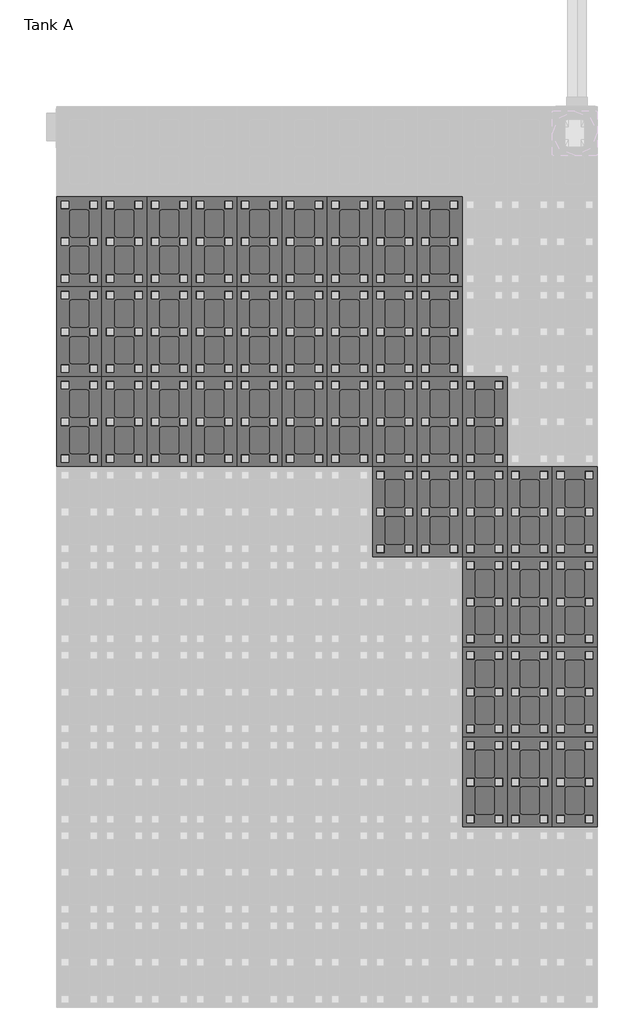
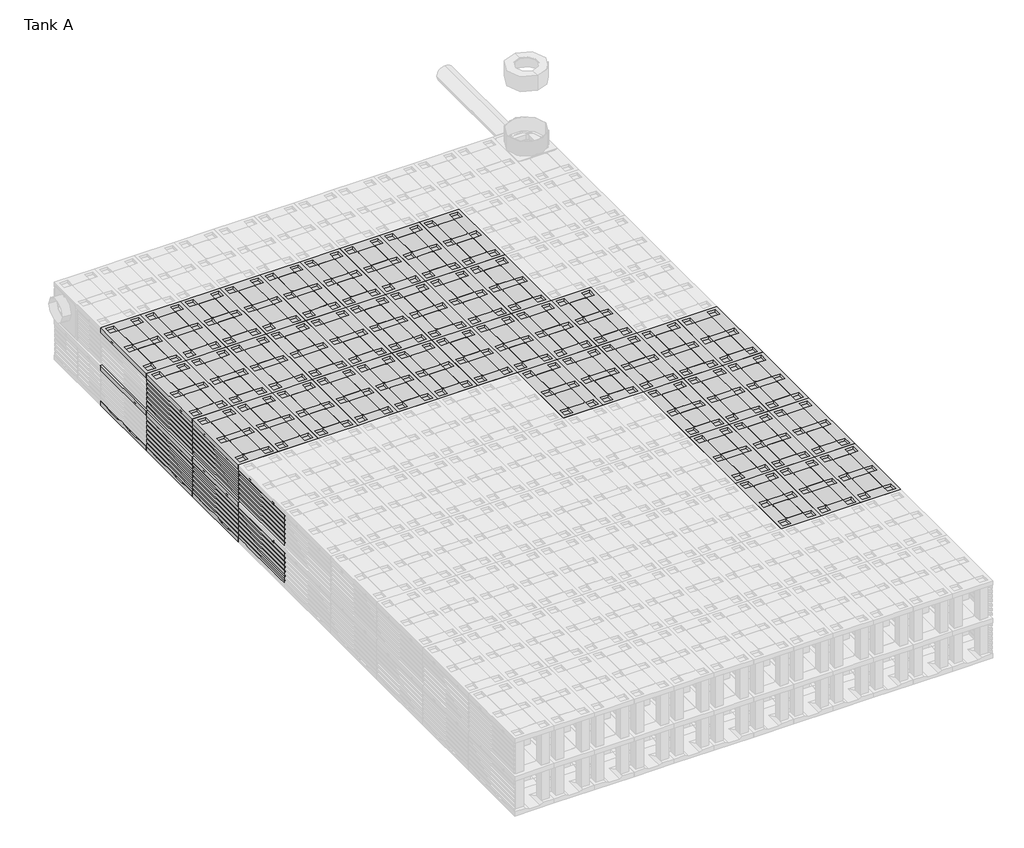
# One storey, part 3 of 6: 142 unitary equipment elements.
"""IFC4 building model written with IfcOpenShell, lengths in millimetres."""

from ifc_helpers import new_model, si_unit, origin, place, context, project, spatial, transform, mapped, element, save
from components import closed_bottom_plate_7d425a97, std_f31acf44, std_d7962c01

model = new_model("IFC4")

# Units and contexts
model_context = context("Model", 3, world=origin())
ifc_project = project(units=[si_unit("LENGTHUNIT", "METRE", prefix="MILLI")], contexts=[model_context])

# Site, building, storey
site = spatial("IfcSite", under=ifc_project)
building = spatial("IfcBuilding", under=site)
storey = spatial("IfcBuildingStorey", under=building, Name="Tank A", Elevation=-2300.0)

# Unitary equipment
placement = place(None, origin())
closed_bottom_plate_shape = closed_bottom_plate_7d425a97(model_context)
element("IfcUnitaryEquipment", 1, ObjectType="Wavin_MechanicalEquipment_QBicPlusZDoNotUseBottomPlate : Open bottom plate", at=placement, inside=storey, context=model_context, shape_type="MappedRepresentation", body=[
    mapped(closed_bottom_plate_shape, transform((9686.051096, 360.7779398, -2230.0), x_axis=(0.0, 1.0, 0.0), y_axis=(-1.0000000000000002, 0.0, 0.0), z_axis=(0.0, 0.0, 1.0000000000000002))),
])
element("IfcUnitaryEquipment", 2, ObjectType="Wavin_MechanicalEquipment_QBicPlusZDoNotUseBottomPlate : Open bottom plate", at=placement, inside=storey, context=model_context, shape_type="MappedRepresentation", body=[
    mapped(closed_bottom_plate_shape, transform((9686.051096, 1560.7779398, -2230.0), x_axis=(0.0, 1.0, 0.0), y_axis=(-1.0000000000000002, 0.0, 0.0), z_axis=(0.0, 0.0, 1.0000000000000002))),
])
element("IfcUnitaryEquipment", 3, ObjectType="Wavin_MechanicalEquipment_QBicPlusZDoNotUseBottomPlate : Open bottom plate", at=placement, inside=storey, context=model_context, shape_type="MappedRepresentation", body=[
    mapped(closed_bottom_plate_shape, transform((9686.051096, 2760.7779398, -2230.0), x_axis=(0.0, 1.0, 0.0), y_axis=(-1.0000000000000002, 0.0, 0.0), z_axis=(0.0, 0.0, 1.0000000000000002))),
])
element("IfcUnitaryEquipment", 4, ObjectType="Wavin_MechanicalEquipment_QBicPlusZDoNotUseBottomPlate : Open bottom plate", at=placement, inside=storey, context=model_context, shape_type="MappedRepresentation", body=[
    mapped(closed_bottom_plate_shape, transform((9686.051096, 3960.7779398, -2230.0), x_axis=(0.0, 1.0, 0.0), y_axis=(-1.0000000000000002, 0.0, 0.0), z_axis=(0.0, 0.0, 1.0000000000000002))),
])
element("IfcUnitaryEquipment", 5, ObjectType="Wavin_MechanicalEquipment_QBicPlusZDoNotUseBottomPlate : Open bottom plate", at=placement, inside=storey, context=model_context, shape_type="MappedRepresentation", body=[
    mapped(closed_bottom_plate_shape, transform((9086.051096, 360.7779398, -2230.0), x_axis=(0.0, 1.0, 0.0), y_axis=(-1.0000000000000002, 0.0, 0.0), z_axis=(0.0, 0.0, 1.0000000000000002))),
])
element("IfcUnitaryEquipment", 6, ObjectType="Wavin_MechanicalEquipment_QBicPlusZDoNotUseBottomPlate : Open bottom plate", at=placement, inside=storey, context=model_context, shape_type="MappedRepresentation", body=[
    mapped(closed_bottom_plate_shape, transform((9086.051096, 1560.7779398, -2230.0), x_axis=(0.0, 1.0, 0.0), y_axis=(-1.0000000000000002, 0.0, 0.0), z_axis=(0.0, 0.0, 1.0000000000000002))),
])
element("IfcUnitaryEquipment", 7, ObjectType="Wavin_MechanicalEquipment_QBicPlusZDoNotUseBottomPlate : Open bottom plate", at=placement, inside=storey, context=model_context, shape_type="MappedRepresentation", body=[
    mapped(closed_bottom_plate_shape, transform((9086.051096, 2760.7779398, -2230.0), x_axis=(0.0, 1.0, 0.0), y_axis=(-1.0000000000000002, 0.0, 0.0), z_axis=(0.0, 0.0, 1.0000000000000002))),
])
element("IfcUnitaryEquipment", 8, ObjectType="Wavin_MechanicalEquipment_QBicPlusZDoNotUseBottomPlate : Open bottom plate", at=placement, inside=storey, context=model_context, shape_type="MappedRepresentation", body=[
    mapped(closed_bottom_plate_shape, transform((9086.051096, 3960.7779398, -2230.0), x_axis=(0.0, 1.0, 0.0), y_axis=(-1.0000000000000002, 0.0, 0.0), z_axis=(0.0, 0.0, 1.0000000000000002))),
])
element("IfcUnitaryEquipment", 9, ObjectType="Wavin_MechanicalEquipment_QBicPlusZDoNotUseBottomPlate : Open bottom plate", at=placement, inside=storey, context=model_context, shape_type="MappedRepresentation", body=[
    mapped(closed_bottom_plate_shape, transform((8486.051096, 360.7779398, -2230.0), x_axis=(0.0, 1.0, 0.0), y_axis=(-1.0000000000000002, 0.0, 0.0), z_axis=(0.0, 0.0, 1.0000000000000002))),
])
element("IfcUnitaryEquipment", 10, ObjectType="Wavin_MechanicalEquipment_QBicPlusZDoNotUseBottomPlate : Open bottom plate", at=placement, inside=storey, context=model_context, shape_type="MappedRepresentation", body=[
    mapped(closed_bottom_plate_shape, transform((8486.051096, 1560.7779398, -2230.0), x_axis=(0.0, 1.0, 0.0), y_axis=(-1.0000000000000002, 0.0, 0.0), z_axis=(0.0, 0.0, 1.0000000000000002))),
])
element("IfcUnitaryEquipment", 11, ObjectType="Wavin_MechanicalEquipment_QBicPlusZDoNotUseBottomPlate : Open bottom plate", at=placement, inside=storey, context=model_context, shape_type="MappedRepresentation", body=[
    mapped(closed_bottom_plate_shape, transform((8486.051096, 2760.7779398, -2230.0), x_axis=(0.0, 1.0, 0.0), y_axis=(-1.0000000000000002, 0.0, 0.0), z_axis=(0.0, 0.0, 1.0000000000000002))),
])
element("IfcUnitaryEquipment", 12, ObjectType="Wavin_MechanicalEquipment_QBicPlusZDoNotUseBottomPlate : Open bottom plate", at=placement, inside=storey, context=model_context, shape_type="MappedRepresentation", body=[
    mapped(closed_bottom_plate_shape, transform((8486.051096, 3960.7779398, -2230.0), x_axis=(0.0, 1.0, 0.0), y_axis=(-1.0000000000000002, 0.0, 0.0), z_axis=(0.0, 0.0, 1.0000000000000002))),
])
element("IfcUnitaryEquipment", 13, ObjectType="Wavin_MechanicalEquipment_QBicPlusZDoNotUseBottomPlate : Open bottom plate", at=placement, inside=storey, context=model_context, shape_type="MappedRepresentation", body=[
    mapped(closed_bottom_plate_shape, transform((7886.051096, 3960.7779398, -2230.0), x_axis=(0.0, 1.0, 0.0), y_axis=(-1.0000000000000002, 0.0, 0.0), z_axis=(0.0, 0.0, 1.0000000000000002))),
])
element("IfcUnitaryEquipment", 14, ObjectType="Wavin_MechanicalEquipment_QBicPlusZDoNotUseBottomPlate : Open bottom plate", at=placement, inside=storey, context=model_context, shape_type="MappedRepresentation", body=[
    mapped(closed_bottom_plate_shape, transform((7886.051096, 5160.7779398, -2230.0), x_axis=(0.0, 1.0, 0.0), y_axis=(-1.0000000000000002, 0.0, 0.0), z_axis=(0.0, 0.0, 1.0000000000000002))),
])
element("IfcUnitaryEquipment", 15, ObjectType="Wavin_MechanicalEquipment_QBicPlusZDoNotUseBottomPlate : Open bottom plate", at=placement, inside=storey, context=model_context, shape_type="MappedRepresentation", body=[
    mapped(closed_bottom_plate_shape, transform((7886.051096, 6360.7779398, -2230.0), x_axis=(0.0, 1.0, 0.0), y_axis=(-1.0000000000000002, 0.0, 0.0), z_axis=(0.0, 0.0, 1.0000000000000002))),
])
element("IfcUnitaryEquipment", 16, ObjectType="Wavin_MechanicalEquipment_QBicPlusZDoNotUseBottomPlate : Open bottom plate", at=placement, inside=storey, context=model_context, shape_type="MappedRepresentation", body=[
    mapped(closed_bottom_plate_shape, transform((7886.051096, 7560.7779398, -2230.0), x_axis=(0.0, 1.0, 0.0), y_axis=(-1.0000000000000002, 0.0, 0.0), z_axis=(0.0, 0.0, 1.0000000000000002))),
])
element("IfcUnitaryEquipment", 17, ObjectType="Wavin_MechanicalEquipment_QBicPlusZDoNotUseBottomPlate : Open bottom plate", at=placement, inside=storey, context=model_context, shape_type="MappedRepresentation", body=[
    mapped(closed_bottom_plate_shape, transform((7286.051096, 3960.7779398, -2230.0), x_axis=(0.0, 1.0, 0.0), y_axis=(-1.0000000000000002, 0.0, 0.0), z_axis=(0.0, 0.0, 1.0000000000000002))),
])
element("IfcUnitaryEquipment", 18, ObjectType="Wavin_MechanicalEquipment_QBicPlusZDoNotUseBottomPlate : Open bottom plate", at=placement, inside=storey, context=model_context, shape_type="MappedRepresentation", body=[
    mapped(closed_bottom_plate_shape, transform((7286.051096, 5160.7779398, -2230.0), x_axis=(0.0, 1.0, 0.0), y_axis=(-1.0000000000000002, 0.0, 0.0), z_axis=(0.0, 0.0, 1.0000000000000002))),
])
element("IfcUnitaryEquipment", 19, ObjectType="Wavin_MechanicalEquipment_QBicPlusZDoNotUseBottomPlate : Open bottom plate", at=placement, inside=storey, context=model_context, shape_type="MappedRepresentation", body=[
    mapped(closed_bottom_plate_shape, transform((7286.051096, 6360.7779398, -2230.0), x_axis=(0.0, 1.0, 0.0), y_axis=(-1.0000000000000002, 0.0, 0.0), z_axis=(0.0, 0.0, 1.0000000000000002))),
])
element("IfcUnitaryEquipment", 20, ObjectType="Wavin_MechanicalEquipment_QBicPlusZDoNotUseBottomPlate : Open bottom plate", at=placement, inside=storey, context=model_context, shape_type="MappedRepresentation", body=[
    mapped(closed_bottom_plate_shape, transform((7286.051096, 7560.7779398, -2230.0), x_axis=(0.0, 1.0, 0.0), y_axis=(-1.0000000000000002, 0.0, 0.0), z_axis=(0.0, 0.0, 1.0000000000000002))),
])
element("IfcUnitaryEquipment", 21, ObjectType="Wavin_MechanicalEquipment_QBicPlusZDoNotUseBottomPlate : Open bottom plate", at=placement, inside=storey, context=model_context, shape_type="MappedRepresentation", body=[
    mapped(closed_bottom_plate_shape, transform((6686.051096, 3960.7779398, -2230.0), x_axis=(0.0, 1.0, 0.0), y_axis=(-1.0000000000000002, 0.0, 0.0), z_axis=(0.0, 0.0, 1.0000000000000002))),
])
element("IfcUnitaryEquipment", 22, ObjectType="Wavin_MechanicalEquipment_QBicPlusZDoNotUseBottomPlate : Open bottom plate", at=placement, inside=storey, context=model_context, shape_type="MappedRepresentation", body=[
    mapped(closed_bottom_plate_shape, transform((6686.051096, 5160.7779398, -2230.0), x_axis=(0.0, 1.0, 0.0), y_axis=(-1.0000000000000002, 0.0, 0.0), z_axis=(0.0, 0.0, 1.0000000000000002))),
])
element("IfcUnitaryEquipment", 23, ObjectType="Wavin_MechanicalEquipment_QBicPlusZDoNotUseBottomPlate : Open bottom plate", at=placement, inside=storey, context=model_context, shape_type="MappedRepresentation", body=[
    mapped(closed_bottom_plate_shape, transform((6686.051096, 6360.7779398, -2230.0), x_axis=(0.0, 1.0, 0.0), y_axis=(-1.0000000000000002, 0.0, 0.0), z_axis=(0.0, 0.0, 1.0000000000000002))),
])
element("IfcUnitaryEquipment", 24, ObjectType="Wavin_MechanicalEquipment_QBicPlusZDoNotUseBottomPlate : Open bottom plate", at=placement, inside=storey, context=model_context, shape_type="MappedRepresentation", body=[
    mapped(closed_bottom_plate_shape, transform((6686.051096, 7560.7779398, -2230.0), x_axis=(0.0, 1.0, 0.0), y_axis=(-1.0000000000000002, 0.0, 0.0), z_axis=(0.0, 0.0, 1.0000000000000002))),
])
element("IfcUnitaryEquipment", 25, ObjectType="Wavin_MechanicalEquipment_QBicPlusZDoNotUseBottomPlate : Open bottom plate", at=placement, inside=storey, context=model_context, shape_type="MappedRepresentation", body=[
    mapped(closed_bottom_plate_shape, transform((6086.051096, 3960.7779398, -2230.0), x_axis=(0.0, 1.0, 0.0), y_axis=(-1.0000000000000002, 0.0, 0.0), z_axis=(0.0, 0.0, 1.0000000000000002))),
])
element("IfcUnitaryEquipment", 26, ObjectType="Wavin_MechanicalEquipment_QBicPlusZDoNotUseBottomPlate : Open bottom plate", at=placement, inside=storey, context=model_context, shape_type="MappedRepresentation", body=[
    mapped(closed_bottom_plate_shape, transform((6086.051096, 5160.7779398, -2230.0), x_axis=(0.0, 1.0, 0.0), y_axis=(-1.0000000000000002, 0.0, 0.0), z_axis=(0.0, 0.0, 1.0000000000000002))),
])
element("IfcUnitaryEquipment", 27, ObjectType="Wavin_MechanicalEquipment_QBicPlusZDoNotUseBottomPlate : Open bottom plate", at=placement, inside=storey, context=model_context, shape_type="MappedRepresentation", body=[
    mapped(closed_bottom_plate_shape, transform((6086.051096, 6360.7779398, -2230.0), x_axis=(0.0, 1.0, 0.0), y_axis=(-1.0000000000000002, 0.0, 0.0), z_axis=(0.0, 0.0, 1.0000000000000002))),
])
element("IfcUnitaryEquipment", 28, ObjectType="Wavin_MechanicalEquipment_QBicPlusZDoNotUseBottomPlate : Open bottom plate", at=placement, inside=storey, context=model_context, shape_type="MappedRepresentation", body=[
    mapped(closed_bottom_plate_shape, transform((6086.051096, 7560.7779398, -2230.0), x_axis=(0.0, 1.0, 0.0), y_axis=(-1.0000000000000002, 0.0, 0.0), z_axis=(0.0, 0.0, 1.0000000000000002))),
])
element("IfcUnitaryEquipment", 29, ObjectType="Wavin_MechanicalEquipment_QBicPlusZDoNotUseBottomPlate : Open bottom plate", at=placement, inside=storey, context=model_context, shape_type="MappedRepresentation", body=[
    mapped(closed_bottom_plate_shape, transform((5486.051096, 5160.7779398, -2230.0), x_axis=(0.0, 1.0, 0.0), y_axis=(-1.0000000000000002, 0.0, 0.0), z_axis=(0.0, 0.0, 1.0000000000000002))),
])
element("IfcUnitaryEquipment", 30, ObjectType="Wavin_MechanicalEquipment_QBicPlusZDoNotUseBottomPlate : Open bottom plate", at=placement, inside=storey, context=model_context, shape_type="MappedRepresentation", body=[
    mapped(closed_bottom_plate_shape, transform((5486.051096, 6360.7779398, -2230.0), x_axis=(0.0, 1.0, 0.0), y_axis=(-1.0000000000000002, 0.0, 0.0), z_axis=(0.0, 0.0, 1.0000000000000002))),
])
element("IfcUnitaryEquipment", 31, ObjectType="Wavin_MechanicalEquipment_QBicPlusZDoNotUseBottomPlate : Open bottom plate", at=placement, inside=storey, context=model_context, shape_type="MappedRepresentation", body=[
    mapped(closed_bottom_plate_shape, transform((5486.051096, 7560.7779398, -2230.0), x_axis=(0.0, 1.0, 0.0), y_axis=(-1.0000000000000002, 0.0, 0.0), z_axis=(0.0, 0.0, 1.0000000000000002))),
])
element("IfcUnitaryEquipment", 32, ObjectType="Wavin_MechanicalEquipment_QBicPlusZDoNotUseBottomPlate : Open bottom plate", at=placement, inside=storey, context=model_context, shape_type="MappedRepresentation", body=[
    mapped(closed_bottom_plate_shape, transform((4886.051096, 5160.7779398, -2230.0), x_axis=(0.0, 1.0, 0.0), y_axis=(-1.0000000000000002, 0.0, 0.0), z_axis=(0.0, 0.0, 1.0000000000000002))),
])
element("IfcUnitaryEquipment", 33, ObjectType="Wavin_MechanicalEquipment_QBicPlusZDoNotUseBottomPlate : Open bottom plate", at=placement, inside=storey, context=model_context, shape_type="MappedRepresentation", body=[
    mapped(closed_bottom_plate_shape, transform((4886.051096, 6360.7779398, -2230.0), x_axis=(0.0, 1.0, 0.0), y_axis=(-1.0000000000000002, 0.0, 0.0), z_axis=(0.0, 0.0, 1.0000000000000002))),
])
element("IfcUnitaryEquipment", 34, ObjectType="Wavin_MechanicalEquipment_QBicPlusZDoNotUseBottomPlate : Open bottom plate", at=placement, inside=storey, context=model_context, shape_type="MappedRepresentation", body=[
    mapped(closed_bottom_plate_shape, transform((4886.051096, 7560.7779398, -2230.0), x_axis=(0.0, 1.0, 0.0), y_axis=(-1.0000000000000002, 0.0, 0.0), z_axis=(0.0, 0.0, 1.0000000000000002))),
])
element("IfcUnitaryEquipment", 35, ObjectType="Wavin_MechanicalEquipment_QBicPlusZDoNotUseBottomPlate : Open bottom plate", at=placement, inside=storey, context=model_context, shape_type="MappedRepresentation", body=[
    mapped(closed_bottom_plate_shape, transform((4286.051096, 5160.7779398, -2230.0), x_axis=(0.0, 1.0, 0.0), y_axis=(-1.0000000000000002, 0.0, 0.0), z_axis=(0.0, 0.0, 1.0000000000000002))),
])
element("IfcUnitaryEquipment", 36, ObjectType="Wavin_MechanicalEquipment_QBicPlusZDoNotUseBottomPlate : Open bottom plate", at=placement, inside=storey, context=model_context, shape_type="MappedRepresentation", body=[
    mapped(closed_bottom_plate_shape, transform((4286.051096, 6360.7779398, -2230.0), x_axis=(0.0, 1.0, 0.0), y_axis=(-1.0000000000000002, 0.0, 0.0), z_axis=(0.0, 0.0, 1.0000000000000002))),
])
element("IfcUnitaryEquipment", 37, ObjectType="Wavin_MechanicalEquipment_QBicPlusZDoNotUseBottomPlate : Open bottom plate", at=placement, inside=storey, context=model_context, shape_type="MappedRepresentation", body=[
    mapped(closed_bottom_plate_shape, transform((4286.051096, 7560.7779398, -2230.0), x_axis=(0.0, 1.0, 0.0), y_axis=(-1.0000000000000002, 0.0, 0.0), z_axis=(0.0, 0.0, 1.0000000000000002))),
])
element("IfcUnitaryEquipment", 38, ObjectType="Wavin_MechanicalEquipment_QBicPlusZDoNotUseBottomPlate : Open bottom plate", at=placement, inside=storey, context=model_context, shape_type="MappedRepresentation", body=[
    mapped(closed_bottom_plate_shape, transform((3686.051096, 5160.7779398, -2230.0), x_axis=(0.0, 1.0, 0.0), y_axis=(-1.0000000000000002, 0.0, 0.0), z_axis=(0.0, 0.0, 1.0000000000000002))),
])
element("IfcUnitaryEquipment", 39, ObjectType="Wavin_MechanicalEquipment_QBicPlusZDoNotUseBottomPlate : Open bottom plate", at=placement, inside=storey, context=model_context, shape_type="MappedRepresentation", body=[
    mapped(closed_bottom_plate_shape, transform((3686.051096, 6360.7779398, -2230.0), x_axis=(0.0, 1.0, 0.0), y_axis=(-1.0000000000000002, 0.0, 0.0), z_axis=(0.0, 0.0, 1.0000000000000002))),
])
element("IfcUnitaryEquipment", 40, ObjectType="Wavin_MechanicalEquipment_QBicPlusZDoNotUseBottomPlate : Open bottom plate", at=placement, inside=storey, context=model_context, shape_type="MappedRepresentation", body=[
    mapped(closed_bottom_plate_shape, transform((3686.051096, 7560.7779398, -2230.0), x_axis=(0.0, 1.0, 0.0), y_axis=(-1.0000000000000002, 0.0, 0.0), z_axis=(0.0, 0.0, 1.0000000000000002))),
])
element("IfcUnitaryEquipment", 41, ObjectType="Wavin_MechanicalEquipment_QBicPlusZDoNotUseBottomPlate : Open bottom plate", at=placement, inside=storey, context=model_context, shape_type="MappedRepresentation", body=[
    mapped(closed_bottom_plate_shape, transform((3086.051096, 5160.7779398, -2230.0), x_axis=(0.0, 1.0, 0.0), y_axis=(-1.0000000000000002, 0.0, 0.0), z_axis=(0.0, 0.0, 1.0000000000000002))),
])
element("IfcUnitaryEquipment", 42, ObjectType="Wavin_MechanicalEquipment_QBicPlusZDoNotUseBottomPlate : Open bottom plate", at=placement, inside=storey, context=model_context, shape_type="MappedRepresentation", body=[
    mapped(closed_bottom_plate_shape, transform((3086.051096, 6360.7779398, -2230.0), x_axis=(0.0, 1.0, 0.0), y_axis=(-1.0000000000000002, 0.0, 0.0), z_axis=(0.0, 0.0, 1.0000000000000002))),
])
element("IfcUnitaryEquipment", 43, ObjectType="Wavin_MechanicalEquipment_QBicPlusZDoNotUseBottomPlate : Open bottom plate", at=placement, inside=storey, context=model_context, shape_type="MappedRepresentation", body=[
    mapped(closed_bottom_plate_shape, transform((3086.051096, 7560.7779398, -2230.0), x_axis=(0.0, 1.0, 0.0), y_axis=(-1.0000000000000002, 0.0, 0.0), z_axis=(0.0, 0.0, 1.0000000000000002))),
])
std_shape = std_f31acf44(model_context)
element("IfcUnitaryEquipment", 44, ObjectType="Wavin_MechanicalEquipment_QBicPlusZDoNotUseLateralSidePlate : std", at=placement, inside=storey, context=model_context, shape_type="MappedRepresentation", body=[
    mapped(std_shape, transform((9686.051096, 3960.7779398, -2330.0), x_axis=(0.0, 1.0000000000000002, 0.0), y_axis=(-1.0000000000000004, 0.0, 0.0), z_axis=(0.0, 0.0, 1.0000000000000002))),
])
element("IfcUnitaryEquipment", 45, ObjectType="Wavin_MechanicalEquipment_QBicPlusZDoNotUseLateralSidePlate : std", at=placement, inside=storey, context=model_context, shape_type="MappedRepresentation", body=[
    mapped(std_shape, transform((9686.051096, 3960.7779398, -1730.0), x_axis=(0.0, 1.0000000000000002, 0.0), y_axis=(-1.0000000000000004, 0.0, 0.0), z_axis=(0.0, 0.0, 1.0000000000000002))),
])
element("IfcUnitaryEquipment", 46, ObjectType="Wavin_MechanicalEquipment_QBicPlusZDoNotUseLateralSidePlate : std", at=placement, inside=storey, context=model_context, shape_type="MappedRepresentation", body=[
    mapped(std_shape, transform((9686.051096, 2760.7779398, -2330.0), x_axis=(0.0, 1.0000000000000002, 0.0), y_axis=(-1.0000000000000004, 0.0, 0.0), z_axis=(0.0, 0.0, 1.0000000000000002))),
])
element("IfcUnitaryEquipment", 47, ObjectType="Wavin_MechanicalEquipment_QBicPlusZDoNotUseLateralSidePlate : std", at=placement, inside=storey, context=model_context, shape_type="MappedRepresentation", body=[
    mapped(std_shape, transform((9686.051096, 2760.7779398, -1730.0), x_axis=(0.0, 1.0000000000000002, 0.0), y_axis=(-1.0000000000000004, 0.0, 0.0), z_axis=(0.0, 0.0, 1.0000000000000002))),
])
element("IfcUnitaryEquipment", 48, ObjectType="Wavin_MechanicalEquipment_QBicPlusZDoNotUseLateralSidePlate : std", at=placement, inside=storey, context=model_context, shape_type="MappedRepresentation", body=[
    mapped(std_shape, transform((9686.051096, 1560.7779398, -2330.0), x_axis=(0.0, 1.0000000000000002, 0.0), y_axis=(-1.0000000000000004, 0.0, 0.0), z_axis=(0.0, 0.0, 1.0000000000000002))),
])
element("IfcUnitaryEquipment", 49, ObjectType="Wavin_MechanicalEquipment_QBicPlusZDoNotUseLateralSidePlate : std", at=placement, inside=storey, context=model_context, shape_type="MappedRepresentation", body=[
    mapped(std_shape, transform((9686.051096, 1560.7779398, -1730.0), x_axis=(0.0, 1.0000000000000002, 0.0), y_axis=(-1.0000000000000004, 0.0, 0.0), z_axis=(0.0, 0.0, 1.0000000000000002))),
])
element("IfcUnitaryEquipment", 50, ObjectType="Wavin_MechanicalEquipment_QBicPlusZDoNotUseLateralSidePlate : std", at=placement, inside=storey, context=model_context, shape_type="MappedRepresentation", body=[
    mapped(std_shape, transform((9686.051096, 360.7779398, -2330.0), x_axis=(0.0, 1.0000000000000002, 0.0), y_axis=(-1.0000000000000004, 0.0, 0.0), z_axis=(0.0, 0.0, 1.0000000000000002))),
])
element("IfcUnitaryEquipment", 51, ObjectType="Wavin_MechanicalEquipment_QBicPlusZDoNotUseLateralSidePlate : std", at=placement, inside=storey, context=model_context, shape_type="MappedRepresentation", body=[
    mapped(std_shape, transform((9686.051096, 360.7779398, -1730.0), x_axis=(0.0, 1.0000000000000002, 0.0), y_axis=(-1.0000000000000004, 0.0, 0.0), z_axis=(0.0, 0.0, 1.0000000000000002))),
])
element("IfcUnitaryEquipment", 52, ObjectType="Wavin_MechanicalEquipment_QBicPlusZDoNotUseLateralSidePlate : std", at=placement, inside=storey, context=model_context, shape_type="MappedRepresentation", body=[
    mapped(std_shape, transform((2486.051096, 5160.7779398, -2330.0), x_axis=(0.0, -1.0000000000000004, 0.0), y_axis=(1.0000000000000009, 0.0, 0.0), z_axis=(0.0, 0.0, 1.0000000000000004))),
])
element("IfcUnitaryEquipment", 53, ObjectType="Wavin_MechanicalEquipment_QBicPlusZDoNotUseLateralSidePlate : std", at=placement, inside=storey, context=model_context, shape_type="MappedRepresentation", body=[
    mapped(std_shape, transform((2486.051096, 5160.7779398, -1730.0), x_axis=(0.0, -1.0000000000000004, 0.0), y_axis=(1.0000000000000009, 0.0, 0.0), z_axis=(0.0, 0.0, 1.0000000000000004))),
])
element("IfcUnitaryEquipment", 54, ObjectType="Wavin_MechanicalEquipment_QBicPlusZDoNotUseLateralSidePlate : std", at=placement, inside=storey, context=model_context, shape_type="MappedRepresentation", body=[
    mapped(std_shape, transform((2486.051096, 6360.7779398, -2330.0), x_axis=(0.0, -1.0000000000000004, 0.0), y_axis=(1.0000000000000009, 0.0, 0.0), z_axis=(0.0, 0.0, 1.0000000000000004))),
])
element("IfcUnitaryEquipment", 55, ObjectType="Wavin_MechanicalEquipment_QBicPlusZDoNotUseLateralSidePlate : std", at=placement, inside=storey, context=model_context, shape_type="MappedRepresentation", body=[
    mapped(std_shape, transform((2486.051096, 6360.7779398, -1730.0), x_axis=(0.0, -1.0000000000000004, 0.0), y_axis=(1.0000000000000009, 0.0, 0.0), z_axis=(0.0, 0.0, 1.0000000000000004))),
])
element("IfcUnitaryEquipment", 56, ObjectType="Wavin_MechanicalEquipment_QBicPlusZDoNotUseLateralSidePlate : std", at=placement, inside=storey, context=model_context, shape_type="MappedRepresentation", body=[
    mapped(std_shape, transform((2486.051096, 7560.7779398, -2330.0), x_axis=(0.0, -1.0000000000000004, 0.0), y_axis=(1.0000000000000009, 0.0, 0.0), z_axis=(0.0, 0.0, 1.0000000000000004))),
])
element("IfcUnitaryEquipment", 57, ObjectType="Wavin_MechanicalEquipment_QBicPlusZDoNotUseLateralSidePlate : std", at=placement, inside=storey, context=model_context, shape_type="MappedRepresentation", body=[
    mapped(std_shape, transform((2486.051096, 7560.7779398, -1730.0), x_axis=(0.0, -1.0000000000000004, 0.0), y_axis=(1.0000000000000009, 0.0, 0.0), z_axis=(0.0, 0.0, 1.0000000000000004))),
])
std_2_shape = std_d7962c01(model_context)
element("IfcUnitaryEquipment", 58, ObjectType="Wavin_MechanicalEquipment_QBicPlusZDoNotUseInfiltrationUnit : std", at=placement, inside=storey, context=model_context, shape_type="MappedRepresentation", body=[
    mapped(std_2_shape, transform((9686.051096, 360.7779398, -1670.0), x_axis=(0.0, 1.0, 0.0), y_axis=(-1.0000000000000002, 0.0, 0.0), z_axis=(0.0, 0.0, 1.0000000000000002))),
])
element("IfcUnitaryEquipment", 59, ObjectType="Wavin_MechanicalEquipment_QBicPlusZDoNotUseInfiltrationUnit : std", at=placement, inside=storey, context=model_context, shape_type="MappedRepresentation", body=[
    mapped(std_2_shape, transform((9686.051096, 360.7779398, -2270.0), x_axis=(0.0, 1.0, 0.0), y_axis=(-1.0000000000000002, 0.0, 0.0), z_axis=(0.0, 0.0, 1.0000000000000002))),
])
element("IfcUnitaryEquipment", 60, ObjectType="Wavin_MechanicalEquipment_QBicPlusZDoNotUseInfiltrationUnit : std", at=placement, inside=storey, context=model_context, shape_type="MappedRepresentation", body=[
    mapped(std_2_shape, transform((9686.051096, 1560.7779398, -1670.0), x_axis=(0.0, 1.0, 0.0), y_axis=(-1.0000000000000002, 0.0, 0.0), z_axis=(0.0, 0.0, 1.0000000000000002))),
])
element("IfcUnitaryEquipment", 61, ObjectType="Wavin_MechanicalEquipment_QBicPlusZDoNotUseInfiltrationUnit : std", at=placement, inside=storey, context=model_context, shape_type="MappedRepresentation", body=[
    mapped(std_2_shape, transform((9686.051096, 1560.7779398, -2270.0), x_axis=(0.0, 1.0, 0.0), y_axis=(-1.0000000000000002, 0.0, 0.0), z_axis=(0.0, 0.0, 1.0000000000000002))),
])
element("IfcUnitaryEquipment", 62, ObjectType="Wavin_MechanicalEquipment_QBicPlusZDoNotUseInfiltrationUnit : std", at=placement, inside=storey, context=model_context, shape_type="MappedRepresentation", body=[
    mapped(std_2_shape, transform((9686.051096, 2760.7779398, -1670.0), x_axis=(0.0, 1.0, 0.0), y_axis=(-1.0000000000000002, 0.0, 0.0), z_axis=(0.0, 0.0, 1.0000000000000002))),
])
element("IfcUnitaryEquipment", 63, ObjectType="Wavin_MechanicalEquipment_QBicPlusZDoNotUseInfiltrationUnit : std", at=placement, inside=storey, context=model_context, shape_type="MappedRepresentation", body=[
    mapped(std_2_shape, transform((9686.051096, 2760.7779398, -2270.0), x_axis=(0.0, 1.0, 0.0), y_axis=(-1.0000000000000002, 0.0, 0.0), z_axis=(0.0, 0.0, 1.0000000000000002))),
])
element("IfcUnitaryEquipment", 64, ObjectType="Wavin_MechanicalEquipment_QBicPlusZDoNotUseInfiltrationUnit : std", at=placement, inside=storey, context=model_context, shape_type="MappedRepresentation", body=[
    mapped(std_2_shape, transform((9686.051096, 3960.7779398, -1670.0), x_axis=(0.0, 1.0, 0.0), y_axis=(-1.0000000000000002, 0.0, 0.0), z_axis=(0.0, 0.0, 1.0000000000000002))),
])
element("IfcUnitaryEquipment", 65, ObjectType="Wavin_MechanicalEquipment_QBicPlusZDoNotUseInfiltrationUnit : std", at=placement, inside=storey, context=model_context, shape_type="MappedRepresentation", body=[
    mapped(std_2_shape, transform((9686.051096, 3960.7779398, -2270.0), x_axis=(0.0, 1.0, 0.0), y_axis=(-1.0000000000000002, 0.0, 0.0), z_axis=(0.0, 0.0, 1.0000000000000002))),
])
element("IfcUnitaryEquipment", 66, ObjectType="Wavin_MechanicalEquipment_QBicPlusZDoNotUseInfiltrationUnit : std", at=placement, inside=storey, context=model_context, shape_type="MappedRepresentation", body=[
    mapped(std_2_shape, transform((9086.051096, 360.7779398, -1670.0), x_axis=(0.0, 1.0, 0.0), y_axis=(-1.0000000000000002, 0.0, 0.0), z_axis=(0.0, 0.0, 1.0000000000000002))),
])
element("IfcUnitaryEquipment", 67, ObjectType="Wavin_MechanicalEquipment_QBicPlusZDoNotUseInfiltrationUnit : std", at=placement, inside=storey, context=model_context, shape_type="MappedRepresentation", body=[
    mapped(std_2_shape, transform((9086.051096, 360.7779398, -2270.0), x_axis=(0.0, 1.0, 0.0), y_axis=(-1.0000000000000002, 0.0, 0.0), z_axis=(0.0, 0.0, 1.0000000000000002))),
])
element("IfcUnitaryEquipment", 68, ObjectType="Wavin_MechanicalEquipment_QBicPlusZDoNotUseInfiltrationUnit : std", at=placement, inside=storey, context=model_context, shape_type="MappedRepresentation", body=[
    mapped(std_2_shape, transform((9086.051096, 1560.7779398, -1670.0), x_axis=(0.0, 1.0, 0.0), y_axis=(-1.0000000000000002, 0.0, 0.0), z_axis=(0.0, 0.0, 1.0000000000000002))),
])
element("IfcUnitaryEquipment", 69, ObjectType="Wavin_MechanicalEquipment_QBicPlusZDoNotUseInfiltrationUnit : std", at=placement, inside=storey, context=model_context, shape_type="MappedRepresentation", body=[
    mapped(std_2_shape, transform((9086.051096, 1560.7779398, -2270.0), x_axis=(0.0, 1.0, 0.0), y_axis=(-1.0000000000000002, 0.0, 0.0), z_axis=(0.0, 0.0, 1.0000000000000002))),
])
element("IfcUnitaryEquipment", 70, ObjectType="Wavin_MechanicalEquipment_QBicPlusZDoNotUseInfiltrationUnit : std", at=placement, inside=storey, context=model_context, shape_type="MappedRepresentation", body=[
    mapped(std_2_shape, transform((9086.051096, 2760.7779398, -1670.0), x_axis=(0.0, 1.0, 0.0), y_axis=(-1.0000000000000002, 0.0, 0.0), z_axis=(0.0, 0.0, 1.0000000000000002))),
])
element("IfcUnitaryEquipment", 71, ObjectType="Wavin_MechanicalEquipment_QBicPlusZDoNotUseInfiltrationUnit : std", at=placement, inside=storey, context=model_context, shape_type="MappedRepresentation", body=[
    mapped(std_2_shape, transform((9086.051096, 2760.7779398, -2270.0), x_axis=(0.0, 1.0, 0.0), y_axis=(-1.0000000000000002, 0.0, 0.0), z_axis=(0.0, 0.0, 1.0000000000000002))),
])
element("IfcUnitaryEquipment", 72, ObjectType="Wavin_MechanicalEquipment_QBicPlusZDoNotUseInfiltrationUnit : std", at=placement, inside=storey, context=model_context, shape_type="MappedRepresentation", body=[
    mapped(std_2_shape, transform((9086.051096, 3960.7779398, -1670.0), x_axis=(0.0, 1.0, 0.0), y_axis=(-1.0000000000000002, 0.0, 0.0), z_axis=(0.0, 0.0, 1.0000000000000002))),
])
element("IfcUnitaryEquipment", 73, ObjectType="Wavin_MechanicalEquipment_QBicPlusZDoNotUseInfiltrationUnit : std", at=placement, inside=storey, context=model_context, shape_type="MappedRepresentation", body=[
    mapped(std_2_shape, transform((9086.051096, 3960.7779398, -2270.0), x_axis=(0.0, 1.0, 0.0), y_axis=(-1.0000000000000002, 0.0, 0.0), z_axis=(0.0, 0.0, 1.0000000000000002))),
])
element("IfcUnitaryEquipment", 74, ObjectType="Wavin_MechanicalEquipment_QBicPlusZDoNotUseInfiltrationUnit : std", at=placement, inside=storey, context=model_context, shape_type="MappedRepresentation", body=[
    mapped(std_2_shape, transform((8486.051096, 360.7779398, -1670.0), x_axis=(0.0, 1.0, 0.0), y_axis=(-1.0000000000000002, 0.0, 0.0), z_axis=(0.0, 0.0, 1.0000000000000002))),
])
element("IfcUnitaryEquipment", 75, ObjectType="Wavin_MechanicalEquipment_QBicPlusZDoNotUseInfiltrationUnit : std", at=placement, inside=storey, context=model_context, shape_type="MappedRepresentation", body=[
    mapped(std_2_shape, transform((8486.051096, 360.7779398, -2270.0), x_axis=(0.0, 1.0, 0.0), y_axis=(-1.0000000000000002, 0.0, 0.0), z_axis=(0.0, 0.0, 1.0000000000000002))),
])
element("IfcUnitaryEquipment", 76, ObjectType="Wavin_MechanicalEquipment_QBicPlusZDoNotUseInfiltrationUnit : std", at=placement, inside=storey, context=model_context, shape_type="MappedRepresentation", body=[
    mapped(std_2_shape, transform((8486.051096, 1560.7779398, -1670.0), x_axis=(0.0, 1.0, 0.0), y_axis=(-1.0000000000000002, 0.0, 0.0), z_axis=(0.0, 0.0, 1.0000000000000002))),
])
element("IfcUnitaryEquipment", 77, ObjectType="Wavin_MechanicalEquipment_QBicPlusZDoNotUseInfiltrationUnit : std", at=placement, inside=storey, context=model_context, shape_type="MappedRepresentation", body=[
    mapped(std_2_shape, transform((8486.051096, 1560.7779398, -2270.0), x_axis=(0.0, 1.0, 0.0), y_axis=(-1.0000000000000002, 0.0, 0.0), z_axis=(0.0, 0.0, 1.0000000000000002))),
])
element("IfcUnitaryEquipment", 78, ObjectType="Wavin_MechanicalEquipment_QBicPlusZDoNotUseInfiltrationUnit : std", at=placement, inside=storey, context=model_context, shape_type="MappedRepresentation", body=[
    mapped(std_2_shape, transform((8486.051096, 2760.7779398, -1670.0), x_axis=(0.0, 1.0, 0.0), y_axis=(-1.0000000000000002, 0.0, 0.0), z_axis=(0.0, 0.0, 1.0000000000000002))),
])
element("IfcUnitaryEquipment", 79, ObjectType="Wavin_MechanicalEquipment_QBicPlusZDoNotUseInfiltrationUnit : std", at=placement, inside=storey, context=model_context, shape_type="MappedRepresentation", body=[
    mapped(std_2_shape, transform((8486.051096, 2760.7779398, -2270.0), x_axis=(0.0, 1.0, 0.0), y_axis=(-1.0000000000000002, 0.0, 0.0), z_axis=(0.0, 0.0, 1.0000000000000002))),
])
element("IfcUnitaryEquipment", 80, ObjectType="Wavin_MechanicalEquipment_QBicPlusZDoNotUseInfiltrationUnit : std", at=placement, inside=storey, context=model_context, shape_type="MappedRepresentation", body=[
    mapped(std_2_shape, transform((8486.051096, 3960.7779398, -1670.0), x_axis=(0.0, 1.0, 0.0), y_axis=(-1.0000000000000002, 0.0, 0.0), z_axis=(0.0, 0.0, 1.0000000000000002))),
])
element("IfcUnitaryEquipment", 81, ObjectType="Wavin_MechanicalEquipment_QBicPlusZDoNotUseInfiltrationUnit : std", at=placement, inside=storey, context=model_context, shape_type="MappedRepresentation", body=[
    mapped(std_2_shape, transform((8486.051096, 3960.7779398, -2270.0), x_axis=(0.0, 1.0, 0.0), y_axis=(-1.0000000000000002, 0.0, 0.0), z_axis=(0.0, 0.0, 1.0000000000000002))),
])
element("IfcUnitaryEquipment", 82, ObjectType="Wavin_MechanicalEquipment_QBicPlusZDoNotUseInfiltrationUnit : std", at=placement, inside=storey, context=model_context, shape_type="MappedRepresentation", body=[
    mapped(std_2_shape, transform((8486.051096, 5160.7779398, -1670.0), x_axis=(0.0, 1.0, 0.0), y_axis=(-1.0000000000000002, 0.0, 0.0), z_axis=(0.0, 0.0, 1.0000000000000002))),
])
element("IfcUnitaryEquipment", 83, ObjectType="Wavin_MechanicalEquipment_QBicPlusZDoNotUseInfiltrationUnit : std", at=placement, inside=storey, context=model_context, shape_type="MappedRepresentation", body=[
    mapped(std_2_shape, transform((8486.051096, 5160.7779398, -2270.0), x_axis=(0.0, 1.0, 0.0), y_axis=(-1.0000000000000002, 0.0, 0.0), z_axis=(0.0, 0.0, 1.0000000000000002))),
])
element("IfcUnitaryEquipment", 84, ObjectType="Wavin_MechanicalEquipment_QBicPlusZDoNotUseInfiltrationUnit : std", at=placement, inside=storey, context=model_context, shape_type="MappedRepresentation", body=[
    mapped(std_2_shape, transform((7886.051096, 3960.7779398, -1670.0), x_axis=(0.0, 1.0, 0.0), y_axis=(-1.0000000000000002, 0.0, 0.0), z_axis=(0.0, 0.0, 1.0000000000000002))),
])
element("IfcUnitaryEquipment", 85, ObjectType="Wavin_MechanicalEquipment_QBicPlusZDoNotUseInfiltrationUnit : std", at=placement, inside=storey, context=model_context, shape_type="MappedRepresentation", body=[
    mapped(std_2_shape, transform((7886.051096, 3960.7779398, -2270.0), x_axis=(0.0, 1.0, 0.0), y_axis=(-1.0000000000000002, 0.0, 0.0), z_axis=(0.0, 0.0, 1.0000000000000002))),
])
element("IfcUnitaryEquipment", 86, ObjectType="Wavin_MechanicalEquipment_QBicPlusZDoNotUseInfiltrationUnit : std", at=placement, inside=storey, context=model_context, shape_type="MappedRepresentation", body=[
    mapped(std_2_shape, transform((7886.051096, 5160.7779398, -1670.0), x_axis=(0.0, 1.0, 0.0), y_axis=(-1.0000000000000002, 0.0, 0.0), z_axis=(0.0, 0.0, 1.0000000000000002))),
])
element("IfcUnitaryEquipment", 87, ObjectType="Wavin_MechanicalEquipment_QBicPlusZDoNotUseInfiltrationUnit : std", at=placement, inside=storey, context=model_context, shape_type="MappedRepresentation", body=[
    mapped(std_2_shape, transform((7886.051096, 5160.7779398, -2270.0), x_axis=(0.0, 1.0, 0.0), y_axis=(-1.0000000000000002, 0.0, 0.0), z_axis=(0.0, 0.0, 1.0000000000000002))),
])
element("IfcUnitaryEquipment", 88, ObjectType="Wavin_MechanicalEquipment_QBicPlusZDoNotUseInfiltrationUnit : std", at=placement, inside=storey, context=model_context, shape_type="MappedRepresentation", body=[
    mapped(std_2_shape, transform((7886.051096, 6360.7779398, -1670.0), x_axis=(0.0, 1.0, 0.0), y_axis=(-1.0000000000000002, 0.0, 0.0), z_axis=(0.0, 0.0, 1.0000000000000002))),
])
element("IfcUnitaryEquipment", 89, ObjectType="Wavin_MechanicalEquipment_QBicPlusZDoNotUseInfiltrationUnit : std", at=placement, inside=storey, context=model_context, shape_type="MappedRepresentation", body=[
    mapped(std_2_shape, transform((7886.051096, 6360.7779398, -2270.0), x_axis=(0.0, 1.0, 0.0), y_axis=(-1.0000000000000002, 0.0, 0.0), z_axis=(0.0, 0.0, 1.0000000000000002))),
])
element("IfcUnitaryEquipment", 90, ObjectType="Wavin_MechanicalEquipment_QBicPlusZDoNotUseInfiltrationUnit : std", at=placement, inside=storey, context=model_context, shape_type="MappedRepresentation", body=[
    mapped(std_2_shape, transform((7886.051096, 7560.7779398, -1670.0), x_axis=(0.0, 1.0, 0.0), y_axis=(-1.0000000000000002, 0.0, 0.0), z_axis=(0.0, 0.0, 1.0000000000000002))),
])
element("IfcUnitaryEquipment", 91, ObjectType="Wavin_MechanicalEquipment_QBicPlusZDoNotUseInfiltrationUnit : std", at=placement, inside=storey, context=model_context, shape_type="MappedRepresentation", body=[
    mapped(std_2_shape, transform((7886.051096, 7560.7779398, -2270.0), x_axis=(0.0, 1.0, 0.0), y_axis=(-1.0000000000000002, 0.0, 0.0), z_axis=(0.0, 0.0, 1.0000000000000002))),
])
element("IfcUnitaryEquipment", 92, ObjectType="Wavin_MechanicalEquipment_QBicPlusZDoNotUseInfiltrationUnit : std", at=placement, inside=storey, context=model_context, shape_type="MappedRepresentation", body=[
    mapped(std_2_shape, transform((7286.051096, 3960.7779398, -1670.0), x_axis=(0.0, 1.0, 0.0), y_axis=(-1.0000000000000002, 0.0, 0.0), z_axis=(0.0, 0.0, 1.0000000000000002))),
])
element("IfcUnitaryEquipment", 93, ObjectType="Wavin_MechanicalEquipment_QBicPlusZDoNotUseInfiltrationUnit : std", at=placement, inside=storey, context=model_context, shape_type="MappedRepresentation", body=[
    mapped(std_2_shape, transform((7286.051096, 3960.7779398, -2270.0), x_axis=(0.0, 1.0, 0.0), y_axis=(-1.0000000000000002, 0.0, 0.0), z_axis=(0.0, 0.0, 1.0000000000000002))),
])
element("IfcUnitaryEquipment", 94, ObjectType="Wavin_MechanicalEquipment_QBicPlusZDoNotUseInfiltrationUnit : std", at=placement, inside=storey, context=model_context, shape_type="MappedRepresentation", body=[
    mapped(std_2_shape, transform((7286.051096, 5160.7779398, -1670.0), x_axis=(0.0, 1.0, 0.0), y_axis=(-1.0000000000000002, 0.0, 0.0), z_axis=(0.0, 0.0, 1.0000000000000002))),
])
element("IfcUnitaryEquipment", 95, ObjectType="Wavin_MechanicalEquipment_QBicPlusZDoNotUseInfiltrationUnit : std", at=placement, inside=storey, context=model_context, shape_type="MappedRepresentation", body=[
    mapped(std_2_shape, transform((7286.051096, 5160.7779398, -2270.0), x_axis=(0.0, 1.0, 0.0), y_axis=(-1.0000000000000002, 0.0, 0.0), z_axis=(0.0, 0.0, 1.0000000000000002))),
])
element("IfcUnitaryEquipment", 96, ObjectType="Wavin_MechanicalEquipment_QBicPlusZDoNotUseInfiltrationUnit : std", at=placement, inside=storey, context=model_context, shape_type="MappedRepresentation", body=[
    mapped(std_2_shape, transform((7286.051096, 6360.7779398, -1670.0), x_axis=(0.0, 1.0, 0.0), y_axis=(-1.0000000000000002, 0.0, 0.0), z_axis=(0.0, 0.0, 1.0000000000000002))),
])
element("IfcUnitaryEquipment", 97, ObjectType="Wavin_MechanicalEquipment_QBicPlusZDoNotUseInfiltrationUnit : std", at=placement, inside=storey, context=model_context, shape_type="MappedRepresentation", body=[
    mapped(std_2_shape, transform((7286.051096, 6360.7779398, -2270.0), x_axis=(0.0, 1.0, 0.0), y_axis=(-1.0000000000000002, 0.0, 0.0), z_axis=(0.0, 0.0, 1.0000000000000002))),
])
element("IfcUnitaryEquipment", 98, ObjectType="Wavin_MechanicalEquipment_QBicPlusZDoNotUseInfiltrationUnit : std", at=placement, inside=storey, context=model_context, shape_type="MappedRepresentation", body=[
    mapped(std_2_shape, transform((7286.051096, 7560.7779398, -1670.0), x_axis=(0.0, 1.0, 0.0), y_axis=(-1.0000000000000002, 0.0, 0.0), z_axis=(0.0, 0.0, 1.0000000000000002))),
])
element("IfcUnitaryEquipment", 99, ObjectType="Wavin_MechanicalEquipment_QBicPlusZDoNotUseInfiltrationUnit : std", at=placement, inside=storey, context=model_context, shape_type="MappedRepresentation", body=[
    mapped(std_2_shape, transform((7286.051096, 7560.7779398, -2270.0), x_axis=(0.0, 1.0, 0.0), y_axis=(-1.0000000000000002, 0.0, 0.0), z_axis=(0.0, 0.0, 1.0000000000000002))),
])
element("IfcUnitaryEquipment", 100, ObjectType="Wavin_MechanicalEquipment_QBicPlusZDoNotUseInfiltrationUnit : std", at=placement, inside=storey, context=model_context, shape_type="MappedRepresentation", body=[
    mapped(std_2_shape, transform((6686.051096, 5160.7779398, -1670.0), x_axis=(0.0, 1.0, 0.0), y_axis=(-1.0000000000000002, 0.0, 0.0), z_axis=(0.0, 0.0, 1.0000000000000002))),
])
element("IfcUnitaryEquipment", 101, ObjectType="Wavin_MechanicalEquipment_QBicPlusZDoNotUseInfiltrationUnit : std", at=placement, inside=storey, context=model_context, shape_type="MappedRepresentation", body=[
    mapped(std_2_shape, transform((6686.051096, 5160.7779398, -2270.0), x_axis=(0.0, 1.0, 0.0), y_axis=(-1.0000000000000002, 0.0, 0.0), z_axis=(0.0, 0.0, 1.0000000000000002))),
])
element("IfcUnitaryEquipment", 102, ObjectType="Wavin_MechanicalEquipment_QBicPlusZDoNotUseInfiltrationUnit : std", at=placement, inside=storey, context=model_context, shape_type="MappedRepresentation", body=[
    mapped(std_2_shape, transform((6686.051096, 6360.7779398, -1670.0), x_axis=(0.0, 1.0, 0.0), y_axis=(-1.0000000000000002, 0.0, 0.0), z_axis=(0.0, 0.0, 1.0000000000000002))),
])
element("IfcUnitaryEquipment", 103, ObjectType="Wavin_MechanicalEquipment_QBicPlusZDoNotUseInfiltrationUnit : std", at=placement, inside=storey, context=model_context, shape_type="MappedRepresentation", body=[
    mapped(std_2_shape, transform((6686.051096, 6360.7779398, -2270.0), x_axis=(0.0, 1.0, 0.0), y_axis=(-1.0000000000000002, 0.0, 0.0), z_axis=(0.0, 0.0, 1.0000000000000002))),
])
element("IfcUnitaryEquipment", 104, ObjectType="Wavin_MechanicalEquipment_QBicPlusZDoNotUseInfiltrationUnit : std", at=placement, inside=storey, context=model_context, shape_type="MappedRepresentation", body=[
    mapped(std_2_shape, transform((6686.051096, 7560.7779398, -1670.0), x_axis=(0.0, 1.0, 0.0), y_axis=(-1.0000000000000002, 0.0, 0.0), z_axis=(0.0, 0.0, 1.0000000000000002))),
])
element("IfcUnitaryEquipment", 105, ObjectType="Wavin_MechanicalEquipment_QBicPlusZDoNotUseInfiltrationUnit : std", at=placement, inside=storey, context=model_context, shape_type="MappedRepresentation", body=[
    mapped(std_2_shape, transform((6686.051096, 7560.7779398, -2270.0), x_axis=(0.0, 1.0, 0.0), y_axis=(-1.0000000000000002, 0.0, 0.0), z_axis=(0.0, 0.0, 1.0000000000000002))),
])
element("IfcUnitaryEquipment", 106, ObjectType="Wavin_MechanicalEquipment_QBicPlusZDoNotUseInfiltrationUnit : std", at=placement, inside=storey, context=model_context, shape_type="MappedRepresentation", body=[
    mapped(std_2_shape, transform((6086.051096, 3960.7779398, -2270.0), x_axis=(0.0, 1.0, 0.0), y_axis=(-1.0000000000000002, 0.0, 0.0), z_axis=(0.0, 0.0, 1.0000000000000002))),
])
element("IfcUnitaryEquipment", 107, ObjectType="Wavin_MechanicalEquipment_QBicPlusZDoNotUseInfiltrationUnit : std", at=placement, inside=storey, context=model_context, shape_type="MappedRepresentation", body=[
    mapped(std_2_shape, transform((6086.051096, 5160.7779398, -1670.0), x_axis=(0.0, 1.0, 0.0), y_axis=(-1.0000000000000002, 0.0, 0.0), z_axis=(0.0, 0.0, 1.0000000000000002))),
])
element("IfcUnitaryEquipment", 108, ObjectType="Wavin_MechanicalEquipment_QBicPlusZDoNotUseInfiltrationUnit : std", at=placement, inside=storey, context=model_context, shape_type="MappedRepresentation", body=[
    mapped(std_2_shape, transform((6086.051096, 5160.7779398, -2270.0), x_axis=(0.0, 1.0, 0.0), y_axis=(-1.0000000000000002, 0.0, 0.0), z_axis=(0.0, 0.0, 1.0000000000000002))),
])
element("IfcUnitaryEquipment", 109, ObjectType="Wavin_MechanicalEquipment_QBicPlusZDoNotUseInfiltrationUnit : std", at=placement, inside=storey, context=model_context, shape_type="MappedRepresentation", body=[
    mapped(std_2_shape, transform((6086.051096, 6360.7779398, -1670.0), x_axis=(0.0, 1.0, 0.0), y_axis=(-1.0000000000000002, 0.0, 0.0), z_axis=(0.0, 0.0, 1.0000000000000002))),
])
element("IfcUnitaryEquipment", 110, ObjectType="Wavin_MechanicalEquipment_QBicPlusZDoNotUseInfiltrationUnit : std", at=placement, inside=storey, context=model_context, shape_type="MappedRepresentation", body=[
    mapped(std_2_shape, transform((6086.051096, 6360.7779398, -2270.0), x_axis=(0.0, 1.0, 0.0), y_axis=(-1.0000000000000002, 0.0, 0.0), z_axis=(0.0, 0.0, 1.0000000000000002))),
])
element("IfcUnitaryEquipment", 111, ObjectType="Wavin_MechanicalEquipment_QBicPlusZDoNotUseInfiltrationUnit : std", at=placement, inside=storey, context=model_context, shape_type="MappedRepresentation", body=[
    mapped(std_2_shape, transform((6086.051096, 7560.7779398, -1670.0), x_axis=(0.0, 1.0, 0.0), y_axis=(-1.0000000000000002, 0.0, 0.0), z_axis=(0.0, 0.0, 1.0000000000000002))),
])
element("IfcUnitaryEquipment", 112, ObjectType="Wavin_MechanicalEquipment_QBicPlusZDoNotUseInfiltrationUnit : std", at=placement, inside=storey, context=model_context, shape_type="MappedRepresentation", body=[
    mapped(std_2_shape, transform((6086.051096, 7560.7779398, -2270.0), x_axis=(0.0, 1.0, 0.0), y_axis=(-1.0000000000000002, 0.0, 0.0), z_axis=(0.0, 0.0, 1.0000000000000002))),
])
element("IfcUnitaryEquipment", 113, ObjectType="Wavin_MechanicalEquipment_QBicPlusZDoNotUseInfiltrationUnit : std", at=placement, inside=storey, context=model_context, shape_type="MappedRepresentation", body=[
    mapped(std_2_shape, transform((5486.051096, 5160.7779398, -1670.0), x_axis=(0.0, 1.0, 0.0), y_axis=(-1.0000000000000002, 0.0, 0.0), z_axis=(0.0, 0.0, 1.0000000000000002))),
])
element("IfcUnitaryEquipment", 114, ObjectType="Wavin_MechanicalEquipment_QBicPlusZDoNotUseInfiltrationUnit : std", at=placement, inside=storey, context=model_context, shape_type="MappedRepresentation", body=[
    mapped(std_2_shape, transform((5486.051096, 5160.7779398, -2270.0), x_axis=(0.0, 1.0, 0.0), y_axis=(-1.0000000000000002, 0.0, 0.0), z_axis=(0.0, 0.0, 1.0000000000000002))),
])
element("IfcUnitaryEquipment", 115, ObjectType="Wavin_MechanicalEquipment_QBicPlusZDoNotUseInfiltrationUnit : std", at=placement, inside=storey, context=model_context, shape_type="MappedRepresentation", body=[
    mapped(std_2_shape, transform((5486.051096, 6360.7779398, -1670.0), x_axis=(0.0, 1.0, 0.0), y_axis=(-1.0000000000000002, 0.0, 0.0), z_axis=(0.0, 0.0, 1.0000000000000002))),
])
element("IfcUnitaryEquipment", 116, ObjectType="Wavin_MechanicalEquipment_QBicPlusZDoNotUseInfiltrationUnit : std", at=placement, inside=storey, context=model_context, shape_type="MappedRepresentation", body=[
    mapped(std_2_shape, transform((5486.051096, 6360.7779398, -2270.0), x_axis=(0.0, 1.0, 0.0), y_axis=(-1.0000000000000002, 0.0, 0.0), z_axis=(0.0, 0.0, 1.0000000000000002))),
])
element("IfcUnitaryEquipment", 117, ObjectType="Wavin_MechanicalEquipment_QBicPlusZDoNotUseInfiltrationUnit : std", at=placement, inside=storey, context=model_context, shape_type="MappedRepresentation", body=[
    mapped(std_2_shape, transform((5486.051096, 7560.7779398, -1670.0), x_axis=(0.0, 1.0, 0.0), y_axis=(-1.0000000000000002, 0.0, 0.0), z_axis=(0.0, 0.0, 1.0000000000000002))),
])
element("IfcUnitaryEquipment", 118, ObjectType="Wavin_MechanicalEquipment_QBicPlusZDoNotUseInfiltrationUnit : std", at=placement, inside=storey, context=model_context, shape_type="MappedRepresentation", body=[
    mapped(std_2_shape, transform((5486.051096, 7560.7779398, -2270.0), x_axis=(0.0, 1.0, 0.0), y_axis=(-1.0000000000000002, 0.0, 0.0), z_axis=(0.0, 0.0, 1.0000000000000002))),
])
element("IfcUnitaryEquipment", 119, ObjectType="Wavin_MechanicalEquipment_QBicPlusZDoNotUseInfiltrationUnit : std", at=placement, inside=storey, context=model_context, shape_type="MappedRepresentation", body=[
    mapped(std_2_shape, transform((4886.051096, 5160.7779398, -1670.0), x_axis=(0.0, 1.0, 0.0), y_axis=(-1.0000000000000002, 0.0, 0.0), z_axis=(0.0, 0.0, 1.0000000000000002))),
])
element("IfcUnitaryEquipment", 120, ObjectType="Wavin_MechanicalEquipment_QBicPlusZDoNotUseInfiltrationUnit : std", at=placement, inside=storey, context=model_context, shape_type="MappedRepresentation", body=[
    mapped(std_2_shape, transform((4886.051096, 5160.7779398, -2270.0), x_axis=(0.0, 1.0, 0.0), y_axis=(-1.0000000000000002, 0.0, 0.0), z_axis=(0.0, 0.0, 1.0000000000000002))),
])
element("IfcUnitaryEquipment", 121, ObjectType="Wavin_MechanicalEquipment_QBicPlusZDoNotUseInfiltrationUnit : std", at=placement, inside=storey, context=model_context, shape_type="MappedRepresentation", body=[
    mapped(std_2_shape, transform((4886.051096, 6360.7779398, -1670.0), x_axis=(0.0, 1.0, 0.0), y_axis=(-1.0000000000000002, 0.0, 0.0), z_axis=(0.0, 0.0, 1.0000000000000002))),
])
element("IfcUnitaryEquipment", 122, ObjectType="Wavin_MechanicalEquipment_QBicPlusZDoNotUseInfiltrationUnit : std", at=placement, inside=storey, context=model_context, shape_type="MappedRepresentation", body=[
    mapped(std_2_shape, transform((4886.051096, 6360.7779398, -2270.0), x_axis=(0.0, 1.0, 0.0), y_axis=(-1.0000000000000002, 0.0, 0.0), z_axis=(0.0, 0.0, 1.0000000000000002))),
])
element("IfcUnitaryEquipment", 123, ObjectType="Wavin_MechanicalEquipment_QBicPlusZDoNotUseInfiltrationUnit : std", at=placement, inside=storey, context=model_context, shape_type="MappedRepresentation", body=[
    mapped(std_2_shape, transform((4886.051096, 7560.7779398, -1670.0), x_axis=(0.0, 1.0, 0.0), y_axis=(-1.0000000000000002, 0.0, 0.0), z_axis=(0.0, 0.0, 1.0000000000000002))),
])
element("IfcUnitaryEquipment", 124, ObjectType="Wavin_MechanicalEquipment_QBicPlusZDoNotUseInfiltrationUnit : std", at=placement, inside=storey, context=model_context, shape_type="MappedRepresentation", body=[
    mapped(std_2_shape, transform((4886.051096, 7560.7779398, -2270.0), x_axis=(0.0, 1.0, 0.0), y_axis=(-1.0000000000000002, 0.0, 0.0), z_axis=(0.0, 0.0, 1.0000000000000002))),
])
element("IfcUnitaryEquipment", 125, ObjectType="Wavin_MechanicalEquipment_QBicPlusZDoNotUseInfiltrationUnit : std", at=placement, inside=storey, context=model_context, shape_type="MappedRepresentation", body=[
    mapped(std_2_shape, transform((4286.051096, 5160.7779398, -1670.0), x_axis=(0.0, 1.0, 0.0), y_axis=(-1.0000000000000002, 0.0, 0.0), z_axis=(0.0, 0.0, 1.0000000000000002))),
])
element("IfcUnitaryEquipment", 126, ObjectType="Wavin_MechanicalEquipment_QBicPlusZDoNotUseInfiltrationUnit : std", at=placement, inside=storey, context=model_context, shape_type="MappedRepresentation", body=[
    mapped(std_2_shape, transform((4286.051096, 5160.7779398, -2270.0), x_axis=(0.0, 1.0, 0.0), y_axis=(-1.0000000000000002, 0.0, 0.0), z_axis=(0.0, 0.0, 1.0000000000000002))),
])
element("IfcUnitaryEquipment", 127, ObjectType="Wavin_MechanicalEquipment_QBicPlusZDoNotUseInfiltrationUnit : std", at=placement, inside=storey, context=model_context, shape_type="MappedRepresentation", body=[
    mapped(std_2_shape, transform((4286.051096, 6360.7779398, -1670.0), x_axis=(0.0, 1.0, 0.0), y_axis=(-1.0000000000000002, 0.0, 0.0), z_axis=(0.0, 0.0, 1.0000000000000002))),
])
element("IfcUnitaryEquipment", 128, ObjectType="Wavin_MechanicalEquipment_QBicPlusZDoNotUseInfiltrationUnit : std", at=placement, inside=storey, context=model_context, shape_type="MappedRepresentation", body=[
    mapped(std_2_shape, transform((4286.051096, 6360.7779398, -2270.0), x_axis=(0.0, 1.0, 0.0), y_axis=(-1.0000000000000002, 0.0, 0.0), z_axis=(0.0, 0.0, 1.0000000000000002))),
])
element("IfcUnitaryEquipment", 129, ObjectType="Wavin_MechanicalEquipment_QBicPlusZDoNotUseInfiltrationUnit : std", at=placement, inside=storey, context=model_context, shape_type="MappedRepresentation", body=[
    mapped(std_2_shape, transform((4286.051096, 7560.7779398, -1670.0), x_axis=(0.0, 1.0, 0.0), y_axis=(-1.0000000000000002, 0.0, 0.0), z_axis=(0.0, 0.0, 1.0000000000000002))),
])
element("IfcUnitaryEquipment", 130, ObjectType="Wavin_MechanicalEquipment_QBicPlusZDoNotUseInfiltrationUnit : std", at=placement, inside=storey, context=model_context, shape_type="MappedRepresentation", body=[
    mapped(std_2_shape, transform((4286.051096, 7560.7779398, -2270.0), x_axis=(0.0, 1.0, 0.0), y_axis=(-1.0000000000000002, 0.0, 0.0), z_axis=(0.0, 0.0, 1.0000000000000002))),
])
element("IfcUnitaryEquipment", 131, ObjectType="Wavin_MechanicalEquipment_QBicPlusZDoNotUseInfiltrationUnit : std", at=placement, inside=storey, context=model_context, shape_type="MappedRepresentation", body=[
    mapped(std_2_shape, transform((3686.051096, 5160.7779398, -1670.0), x_axis=(0.0, 1.0, 0.0), y_axis=(-1.0000000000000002, 0.0, 0.0), z_axis=(0.0, 0.0, 1.0000000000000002))),
])
element("IfcUnitaryEquipment", 132, ObjectType="Wavin_MechanicalEquipment_QBicPlusZDoNotUseInfiltrationUnit : std", at=placement, inside=storey, context=model_context, shape_type="MappedRepresentation", body=[
    mapped(std_2_shape, transform((3686.051096, 5160.7779398, -2270.0), x_axis=(0.0, 1.0, 0.0), y_axis=(-1.0000000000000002, 0.0, 0.0), z_axis=(0.0, 0.0, 1.0000000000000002))),
])
element("IfcUnitaryEquipment", 133, ObjectType="Wavin_MechanicalEquipment_QBicPlusZDoNotUseInfiltrationUnit : std", at=placement, inside=storey, context=model_context, shape_type="MappedRepresentation", body=[
    mapped(std_2_shape, transform((3686.051096, 6360.7779398, -1670.0), x_axis=(0.0, 1.0, 0.0), y_axis=(-1.0000000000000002, 0.0, 0.0), z_axis=(0.0, 0.0, 1.0000000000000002))),
])
element("IfcUnitaryEquipment", 134, ObjectType="Wavin_MechanicalEquipment_QBicPlusZDoNotUseInfiltrationUnit : std", at=placement, inside=storey, context=model_context, shape_type="MappedRepresentation", body=[
    mapped(std_2_shape, transform((3686.051096, 6360.7779398, -2270.0), x_axis=(0.0, 1.0, 0.0), y_axis=(-1.0000000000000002, 0.0, 0.0), z_axis=(0.0, 0.0, 1.0000000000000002))),
])
element("IfcUnitaryEquipment", 135, ObjectType="Wavin_MechanicalEquipment_QBicPlusZDoNotUseInfiltrationUnit : std", at=placement, inside=storey, context=model_context, shape_type="MappedRepresentation", body=[
    mapped(std_2_shape, transform((3686.051096, 7560.7779398, -1670.0), x_axis=(0.0, 1.0, 0.0), y_axis=(-1.0000000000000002, 0.0, 0.0), z_axis=(0.0, 0.0, 1.0000000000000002))),
])
element("IfcUnitaryEquipment", 136, ObjectType="Wavin_MechanicalEquipment_QBicPlusZDoNotUseInfiltrationUnit : std", at=placement, inside=storey, context=model_context, shape_type="MappedRepresentation", body=[
    mapped(std_2_shape, transform((3686.051096, 7560.7779398, -2270.0), x_axis=(0.0, 1.0, 0.0), y_axis=(-1.0000000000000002, 0.0, 0.0), z_axis=(0.0, 0.0, 1.0000000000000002))),
])
element("IfcUnitaryEquipment", 137, ObjectType="Wavin_MechanicalEquipment_QBicPlusZDoNotUseInfiltrationUnit : std", at=placement, inside=storey, context=model_context, shape_type="MappedRepresentation", body=[
    mapped(std_2_shape, transform((3086.051096, 5160.7779398, -1670.0), x_axis=(0.0, 1.0, 0.0), y_axis=(-1.0000000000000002, 0.0, 0.0), z_axis=(0.0, 0.0, 1.0000000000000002))),
])
element("IfcUnitaryEquipment", 138, ObjectType="Wavin_MechanicalEquipment_QBicPlusZDoNotUseInfiltrationUnit : std", at=placement, inside=storey, context=model_context, shape_type="MappedRepresentation", body=[
    mapped(std_2_shape, transform((3086.051096, 5160.7779398, -2270.0), x_axis=(0.0, 1.0, 0.0), y_axis=(-1.0000000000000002, 0.0, 0.0), z_axis=(0.0, 0.0, 1.0000000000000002))),
])
element("IfcUnitaryEquipment", 139, ObjectType="Wavin_MechanicalEquipment_QBicPlusZDoNotUseInfiltrationUnit : std", at=placement, inside=storey, context=model_context, shape_type="MappedRepresentation", body=[
    mapped(std_2_shape, transform((3086.051096, 6360.7779398, -1670.0), x_axis=(0.0, 1.0, 0.0), y_axis=(-1.0000000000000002, 0.0, 0.0), z_axis=(0.0, 0.0, 1.0000000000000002))),
])
element("IfcUnitaryEquipment", 140, ObjectType="Wavin_MechanicalEquipment_QBicPlusZDoNotUseInfiltrationUnit : std", at=placement, inside=storey, context=model_context, shape_type="MappedRepresentation", body=[
    mapped(std_2_shape, transform((3086.051096, 6360.7779398, -2270.0), x_axis=(0.0, 1.0, 0.0), y_axis=(-1.0000000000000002, 0.0, 0.0), z_axis=(0.0, 0.0, 1.0000000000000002))),
])
element("IfcUnitaryEquipment", 141, ObjectType="Wavin_MechanicalEquipment_QBicPlusZDoNotUseInfiltrationUnit : std", at=placement, inside=storey, context=model_context, shape_type="MappedRepresentation", body=[
    mapped(std_2_shape, transform((3086.051096, 7560.7779398, -1670.0), x_axis=(0.0, 1.0, 0.0), y_axis=(-1.0000000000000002, 0.0, 0.0), z_axis=(0.0, 0.0, 1.0000000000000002))),
])
element("IfcUnitaryEquipment", 142, ObjectType="Wavin_MechanicalEquipment_QBicPlusZDoNotUseInfiltrationUnit : std", at=placement, inside=storey, context=model_context, shape_type="MappedRepresentation", body=[
    mapped(std_2_shape, transform((3086.051096, 7560.7779398, -2270.0), x_axis=(0.0, 1.0, 0.0), y_axis=(-1.0000000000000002, 0.0, 0.0), z_axis=(0.0, 0.0, 1.0000000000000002))),
])

save(model, "model.ifc")
